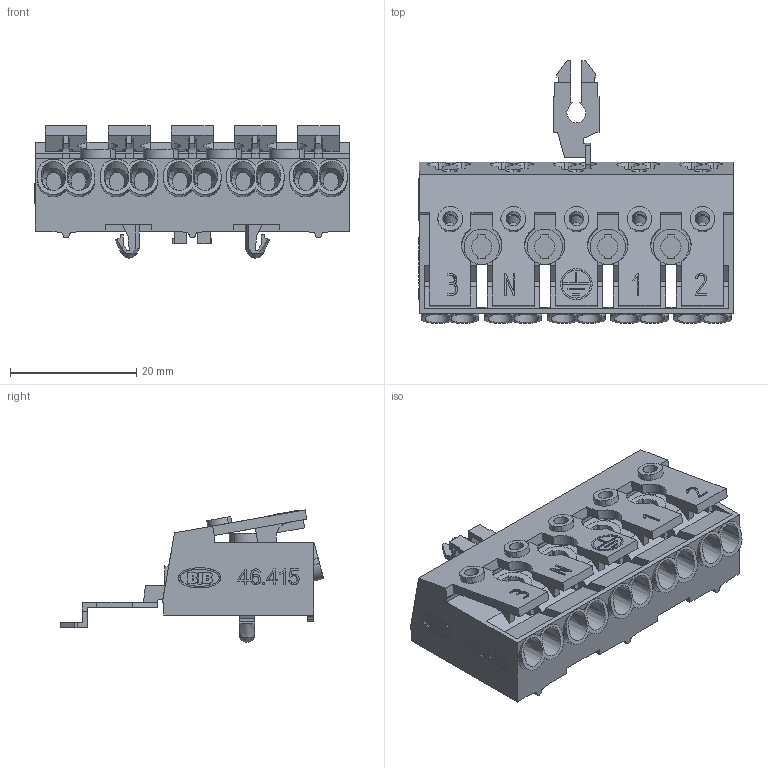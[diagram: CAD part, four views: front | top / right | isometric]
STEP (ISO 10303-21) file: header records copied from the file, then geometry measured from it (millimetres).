
FILE_DESCRIPTION((' '),'1');
FILE_NAME('006YK21Y02.stp','2011-06-17 T09:10:38',(''),(''),'STEP Interface v1.0 by CT CoreTechnologie','3D_Evolution v1.0 by CT CoreTechnologie','');
FILE_SCHEMA(('CONFIG_CONTROL_DESIGN'));
Length unit declared in the file: millimetre
Products named in the file (3): Assem1; 002-R2N-09; 006-K0G-03
Assembly tree (2 placements, depth 2):
  Assem1
    002-R2N-09
    006-K0G-03
Bounding box: 49.9 x 41.68 x 20.98 mm (x, y, z)
Volume: 11400.9 mm3; surface area: 9534.6 mm2
Topology: 2 solids, 2 shells, 775 faces, 2165 edges, 1431 vertices
Faces by surface type: plane 516, cylinder 197, bspline 62
Entity records: 36887 total; most frequent: CARTESIAN_POINT 10180, ORIENTED_EDGE 4242, DIRECTION 3811, EDGE_CURVE 2121, VECTOR 1551, LINE 1551, VERTEX_POINT 1413, AXIS2_PLACEMENT_3D 1130
